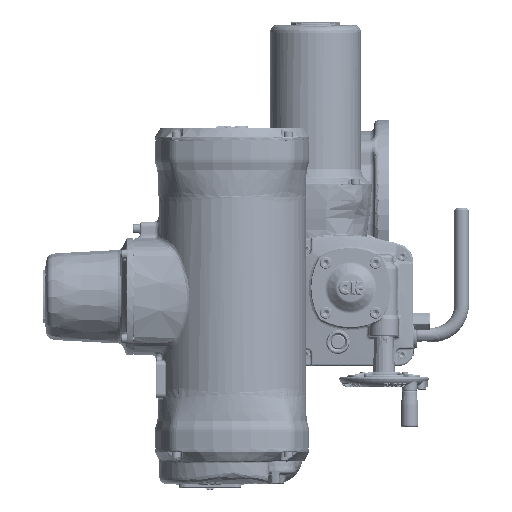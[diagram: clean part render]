
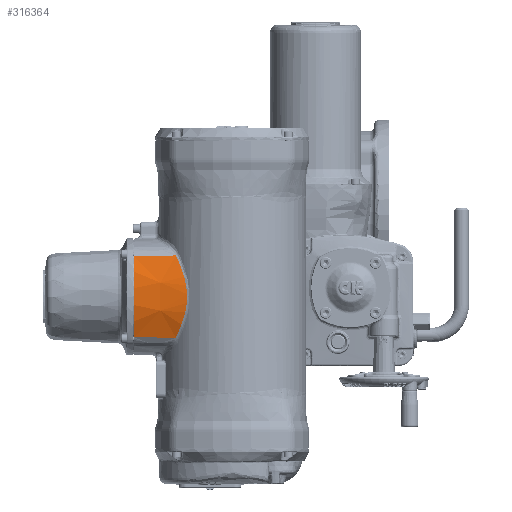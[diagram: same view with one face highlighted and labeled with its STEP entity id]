
A CAD part, top view. The second image highlights one B-rep face of the part: STEP entity #316364.
In plain terms, the highlighted conical face has half-angle 1 degrees and reference radius 107.4 mm.
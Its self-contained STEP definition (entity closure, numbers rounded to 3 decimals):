
#12127=B_SPLINE_CURVE_WITH_KNOTS('',3,(#485528,#485529,#485530,#485531),
 .UNSPECIFIED.,.F.,.F.,(4,4),(0.002,0.049),
 .UNSPECIFIED.);
#12128=B_SPLINE_CURVE_WITH_KNOTS('',3,(#485533,#485534,#485535,#485536,
#485537,#485538,#485539,#485540,#485541,#485542,#485543,#485544,#485545,
#485546,#485547,#485548,#485549,#485550,#485551,#485552,#485553,#485554,
#485555,#485556,#485557,#485558,#485559,#485560,#485561,#485562,#485563,
#485564,#485565,#485566,#485567,#485568,#485569,#485570,#485571,#485572,
#485573,#485574,#485575,#485576,#485577,#485578,#485579,#485580,#485581,
#485582,#485583,#485584,#485585,#485586,#485587,#485588,#485589,#485590,
#485591,#485592,#485593,#485594,#485595,#485596,#485597,#485598,#485599,
#485600,#485601,#485602,#485603,#485604),.UNSPECIFIED.,.F.,.F.,(4,1,1,1,
1,1,1,1,1,1,1,1,1,1,1,1,1,1,1,1,1,1,1,1,1,1,1,1,1,1,1,1,1,1,1,1,1,1,1,1,
1,1,1,1,1,1,1,1,1,1,1,1,1,1,1,1,1,1,1,1,1,1,1,1,1,1,1,1,1,4),(0.,0.031,
0.063,0.078,0.094,0.109,0.117,0.121,0.125,0.129,
0.133,0.141,0.156,0.172,0.188,0.219,0.234,0.242,0.246,
0.25,0.254,0.258,0.266,0.281,0.313,0.344,0.359,0.367,
0.375,0.383,0.391,0.406,0.438,0.469,0.5,0.531,0.563,0.594,
0.609,0.617,0.625,0.633,0.641,0.656,0.688,0.703,0.719,
0.734,0.742,0.746,0.75,0.754,0.758,0.766,0.781,
0.813,0.828,0.844,0.859,0.867,0.871,0.875,0.879,
0.883,0.891,0.906,0.922,0.938,0.969,1.),.UNSPECIFIED.);
#12129=B_SPLINE_CURVE_WITH_KNOTS('',3,(#485606,#485607,#485608,#485609),
 .UNSPECIFIED.,.F.,.F.,(4,4),(0.003,0.049),
 .UNSPECIFIED.);
#20992=CONICAL_SURFACE('',#332025,107.4,0.017);
#71133=ORIENTED_EDGE('',*,*,#127075,.F.);
#71134=ORIENTED_EDGE('',*,*,#127076,.T.);
#71135=ORIENTED_EDGE('',*,*,#127077,.T.);
#71136=ORIENTED_EDGE('',*,*,#127078,.T.);
#127075=EDGE_CURVE('',#156182,#156183,#172530,.T.);
#127076=EDGE_CURVE('',#156182,#156184,#12127,.T.);
#127077=EDGE_CURVE('',#156184,#156185,#12128,.T.);
#127078=EDGE_CURVE('',#156185,#156183,#12129,.T.);
#156182=VERTEX_POINT('',#485526);
#156183=VERTEX_POINT('',#485527);
#156184=VERTEX_POINT('',#485532);
#156185=VERTEX_POINT('',#485605);
#172530=CIRCLE('',#332026,107.44);
#181603=EDGE_LOOP('',(#71133,#71134,#71135,#71136));
#197337=FACE_BOUND('',#181603,.T.);
#316364=ADVANCED_FACE('',(#197337),#20992,.T.);
#332025=AXIS2_PLACEMENT_3D('',#485524,#359513,#359514);
#332026=AXIS2_PLACEMENT_3D('',#485525,#359515,#359516);
#359513=DIRECTION('',(1.,0.,0.));
#359514=DIRECTION('',(0.,-1.,0.));
#359515=DIRECTION('',(-1.,0.,0.));
#359516=DIRECTION('',(0.,-1.,0.));
#485524=CARTESIAN_POINT('',(-110.8,0.,-43.));
#485525=CARTESIAN_POINT('',(-108.5,0.,-43.));
#485526=CARTESIAN_POINT('',(-108.5,-44.814,54.648));
#485527=CARTESIAN_POINT('',(-108.5,44.814,54.648));
#485528=CARTESIAN_POINT('',(-108.5,-44.814,54.648));
#485529=CARTESIAN_POINT('',(-93.047,-45.038,54.842));
#485530=CARTESIAN_POINT('',(-77.594,-45.262,55.035));
#485531=CARTESIAN_POINT('',(-62.141,-45.486,55.229));
#485532=CARTESIAN_POINT('',(-62.141,-45.486,55.229));
#485533=CARTESIAN_POINT('',(-62.141,-45.486,55.229));
#485534=CARTESIAN_POINT('',(-61.675,-44.504,55.693));
#485535=CARTESIAN_POINT('',(-60.783,-42.588,56.561));
#485536=CARTESIAN_POINT('',(-59.765,-40.327,57.51));
#485537=CARTESIAN_POINT('',(-59.01,-38.6,58.195));
#485538=CARTESIAN_POINT('',(-58.473,-37.35,58.673));
#485539=CARTESIAN_POINT('',(-58.048,-36.339,59.045));
#485540=CARTESIAN_POINT('',(-57.767,-35.661,59.288));
#485541=CARTESIAN_POINT('',(-57.605,-35.264,59.428));
#485542=CARTESIAN_POINT('',(-57.501,-35.01,59.517));
#485543=CARTESIAN_POINT('',(-57.337,-34.607,59.657));
#485544=CARTESIAN_POINT('',(-57.143,-34.124,59.823));
#485545=CARTESIAN_POINT('',(-56.799,-33.259,60.114));
#485546=CARTESIAN_POINT('',(-56.329,-32.05,60.506));
#485547=CARTESIAN_POINT('',(-55.79,-30.618,60.948));
#485548=CARTESIAN_POINT('',(-55.107,-28.743,61.499));
#485549=CARTESIAN_POINT('',(-54.478,-26.919,61.994));
#485550=CARTESIAN_POINT('',(-53.972,-25.364,62.384));
#485551=CARTESIAN_POINT('',(-53.733,-24.604,62.567));
#485552=CARTESIAN_POINT('',(-53.597,-24.164,62.671));
#485553=CARTESIAN_POINT('',(-53.504,-23.862,62.741));
#485554=CARTESIAN_POINT('',(-53.383,-23.46,62.834));
#485555=CARTESIAN_POINT('',(-53.234,-22.96,62.946));
#485556=CARTESIAN_POINT('',(-52.974,-22.072,63.141));
#485557=CARTESIAN_POINT('',(-52.484,-20.319,63.505));
#485558=CARTESIAN_POINT('',(-51.855,-17.847,63.964));
#485559=CARTESIAN_POINT('',(-51.323,-15.425,64.343));
#485560=CARTESIAN_POINT('',(-51.003,-13.765,64.569));
#485561=CARTESIAN_POINT('',(-50.832,-12.813,64.688));
#485562=CARTESIAN_POINT('',(-50.717,-12.135,64.768));
#485563=CARTESIAN_POINT('',(-50.589,-11.34,64.857));
#485564=CARTESIAN_POINT('',(-50.437,-10.322,64.963));
#485565=CARTESIAN_POINT('',(-50.195,-8.524,65.131));
#485566=CARTESIAN_POINT('',(-49.931,-5.977,65.312));
#485567=CARTESIAN_POINT('',(-49.741,-2.937,65.44));
#485568=CARTESIAN_POINT('',(-49.679,0.083,65.481));
#485569=CARTESIAN_POINT('',(-49.745,3.064,65.436));
#485570=CARTESIAN_POINT('',(-49.939,6.089,65.305));
#485571=CARTESIAN_POINT('',(-50.205,8.62,65.123));
#485572=CARTESIAN_POINT('',(-50.449,10.409,64.955));
#485573=CARTESIAN_POINT('',(-50.602,11.422,64.849));
#485574=CARTESIAN_POINT('',(-50.73,12.213,64.759));
#485575=CARTESIAN_POINT('',(-50.846,12.891,64.678));
#485576=CARTESIAN_POINT('',(-51.018,13.842,64.558));
#485577=CARTESIAN_POINT('',(-51.34,15.503,64.332));
#485578=CARTESIAN_POINT('',(-51.769,17.444,64.026));
#485579=CARTESIAN_POINT('',(-52.256,19.416,63.673));
#485580=CARTESIAN_POINT('',(-52.651,20.913,63.383));
#485581=CARTESIAN_POINT('',(-53.003,22.17,63.12));
#485582=CARTESIAN_POINT('',(-53.265,23.063,62.923));
#485583=CARTESIAN_POINT('',(-53.415,23.565,62.81));
#485584=CARTESIAN_POINT('',(-53.538,23.972,62.716));
#485585=CARTESIAN_POINT('',(-53.629,24.268,62.647));
#485586=CARTESIAN_POINT('',(-53.764,24.705,62.543));
#485587=CARTESIAN_POINT('',(-54.002,25.457,62.361));
#485588=CARTESIAN_POINT('',(-54.504,26.998,61.973));
#485589=CARTESIAN_POINT('',(-55.129,28.809,61.48));
#485590=CARTESIAN_POINT('',(-55.809,30.672,60.932));
#485591=CARTESIAN_POINT('',(-56.346,32.096,60.491));
#485592=CARTESIAN_POINT('',(-56.814,33.299,60.101));
#485593=CARTESIAN_POINT('',(-57.157,34.16,59.81));
#485594=CARTESIAN_POINT('',(-57.351,34.641,59.645));
#485595=CARTESIAN_POINT('',(-57.514,35.041,59.506));
#485596=CARTESIAN_POINT('',(-57.619,35.298,59.416));
#485597=CARTESIAN_POINT('',(-57.782,35.695,59.276));
#485598=CARTESIAN_POINT('',(-58.063,36.376,59.032));
#485599=CARTESIAN_POINT('',(-58.489,37.386,58.659));
#485600=CARTESIAN_POINT('',(-59.025,38.636,58.181));
#485601=CARTESIAN_POINT('',(-59.779,40.358,57.497));
#485602=CARTESIAN_POINT('',(-60.792,42.609,56.552));
#485603=CARTESIAN_POINT('',(-61.679,44.511,55.689));
#485604=CARTESIAN_POINT('',(-62.141,45.486,55.229));
#485605=CARTESIAN_POINT('',(-62.141,45.486,55.229));
#485606=CARTESIAN_POINT('',(-62.141,45.486,55.229));
#485607=CARTESIAN_POINT('',(-77.594,45.262,55.035));
#485608=CARTESIAN_POINT('',(-93.047,45.038,54.842));
#485609=CARTESIAN_POINT('',(-108.5,44.814,54.648));
